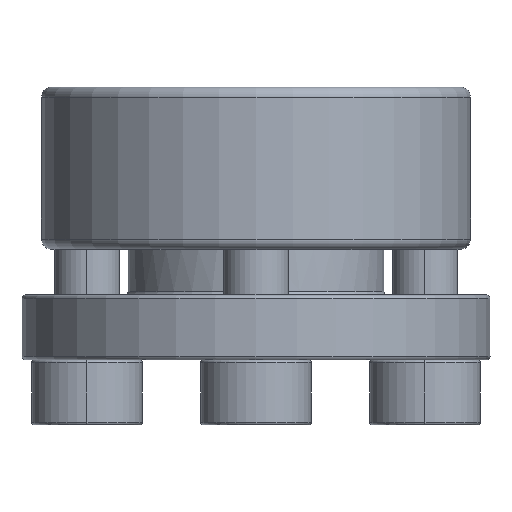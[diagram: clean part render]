
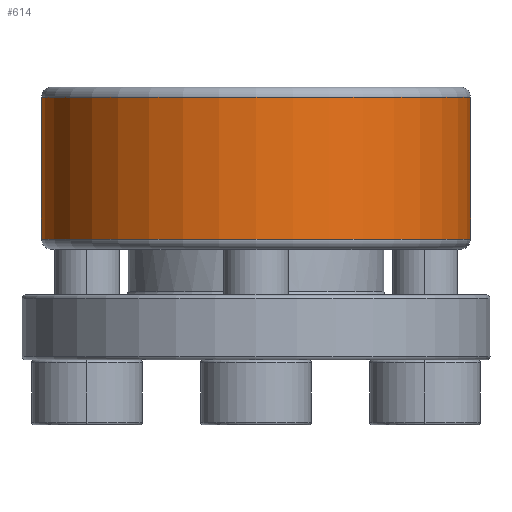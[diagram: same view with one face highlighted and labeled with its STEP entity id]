
A CAD part, front view. The second image highlights one B-rep face of the part: STEP entity #614.
In plain terms, the highlighted cylindrical face has radius 16.5 mm (diameter 33 mm), a partial arc.
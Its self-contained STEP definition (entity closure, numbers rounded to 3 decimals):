
#614 = ADVANCED_FACE ( 'NONE', ( #2759 ), #2761, .T. ) ;
#639 = EDGE_CURVE ( 'NONE', #1246, #1251, #2780, .T. ) ;
#645 = EDGE_CURVE ( 'NONE', #1252, #1246, #2788, .T. ) ;
#646 = EDGE_CURVE ( 'NONE', #1252, #1248, #2790, .T. ) ;
#668 = EDGE_CURVE ( 'NONE', #1248, #1251, #2822, .T. ) ;
#1246 = VERTEX_POINT ( 'NONE', #5576 ) ;
#1248 = VERTEX_POINT ( 'NONE', #5578 ) ;
#1251 = VERTEX_POINT ( 'NONE', #5581 ) ;
#1252 = VERTEX_POINT ( 'NONE', #5582 ) ;
#1630 = ORIENTED_EDGE ( 'NONE', *, *, #645, .F. ) ;
#1631 = ORIENTED_EDGE ( 'NONE', *, *, #646, .T. ) ;
#1632 = ORIENTED_EDGE ( 'NONE', *, *, #668, .T. ) ;
#1633 = ORIENTED_EDGE ( 'NONE', *, *, #639, .F. ) ;
#2759 = FACE_OUTER_BOUND ( 'NONE', #6050, .T. ) ;
#2761 = CYLINDRICAL_SURFACE ( 'NONE', #3561, 16.5 ) ;
#2780 = CIRCLE ( 'NONE', #3576, 16.5 ) ;
#2788 = LINE ( 'NONE', #3432, #2791 ) ;
#2790 = CIRCLE ( 'NONE', #3580, 16.5 ) ;
#2791 = VECTOR ( 'NONE', #3433, 1000. ) ;
#2822 = LINE ( 'NONE', #3487, #2825 ) ;
#2825 = VECTOR ( 'NONE', #3483, 1000. ) ;
#3341 = DIRECTION ( 'NONE',  ( 1., 0., 0. ) ) ;
#3342 = DIRECTION ( 'NONE',  ( 0., 0., 1. ) ) ;
#3345 = CARTESIAN_POINT ( 'NONE',  ( 0., 0., 0.4 ) ) ;
#3417 = CARTESIAN_POINT ( 'NONE',  ( 0., 0., -0.8 ) ) ;
#3418 = DIRECTION ( 'NONE',  ( 0., 0., 1. ) ) ;
#3419 = DIRECTION ( 'NONE',  ( 1., 0., 0. ) ) ;
#3432 = CARTESIAN_POINT ( 'NONE',  ( -16.5, 0., 0.4 ) ) ;
#3433 = DIRECTION ( 'NONE',  ( 0., 0., 1. ) ) ;
#3434 = CARTESIAN_POINT ( 'NONE',  ( 0., 0., -11.7 ) ) ;
#3435 = DIRECTION ( 'NONE',  ( 0., 0., 1. ) ) ;
#3436 = DIRECTION ( 'NONE',  ( 1., 0., 0. ) ) ;
#3483 = DIRECTION ( 'NONE',  ( 0., 0., 1. ) ) ;
#3487 = CARTESIAN_POINT ( 'NONE',  ( 16.5, 0., 0.4 ) ) ;
#3561 = AXIS2_PLACEMENT_3D ( 'NONE', #3345, #3342, #3341 ) ;
#3576 = AXIS2_PLACEMENT_3D ( 'NONE', #3417, #3418, #3419 ) ;
#3580 = AXIS2_PLACEMENT_3D ( 'NONE', #3434, #3435, #3436 ) ;
#5576 = CARTESIAN_POINT ( 'NONE',  ( -16.5, 0., -0.8 ) ) ;
#5578 = CARTESIAN_POINT ( 'NONE',  ( 16.5, 0., -11.7 ) ) ;
#5581 = CARTESIAN_POINT ( 'NONE',  ( 16.5, 0., -0.8 ) ) ;
#5582 = CARTESIAN_POINT ( 'NONE',  ( -16.5, 0., -11.7 ) ) ;
#6050 = EDGE_LOOP ( 'NONE', ( #1630, #1631, #1632, #1633 ) ) ;
